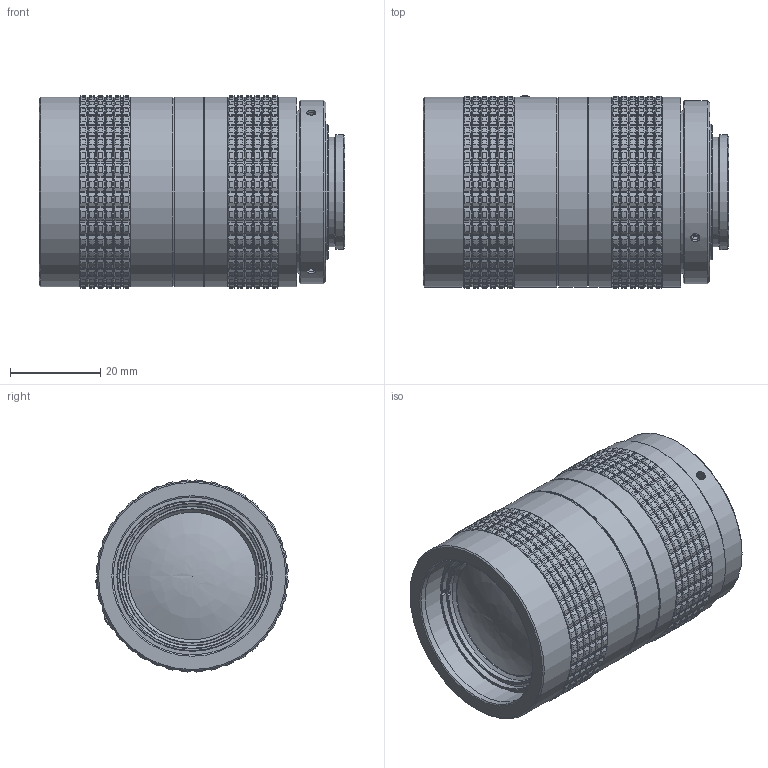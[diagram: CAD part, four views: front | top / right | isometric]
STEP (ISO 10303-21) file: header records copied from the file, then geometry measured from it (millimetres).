
FILE_DESCRIPTION(/* description */ (''),/* implementation_level */ '2;1');
FILE_NAME(/* name */ '0020-005-000-40_AP',/* time_stamp */ '2009-07-29T14:53:47+02:00',/* author */ (''),/* organization */ (''),/* preprocessor_version */ 'ST-DEVELOPER v9',/* originating_system */ 'UGS - NX 4.0',/* authorisation */ '');
FILE_SCHEMA (('AUTOMOTIVE_DESIGN { 1 0 10303 214 1 1 1 1 }'));
Products named in the file (1): pant4B41j2zn
Bounding box: 67.57 x 42.52 x 42.46 mm (x, y, z)
Volume: 81865.1 mm3; surface area: 16662.7 mm2
Topology: 4 solids, 8 shells, 3072 faces, 8090 edges, 5061 vertices
Faces by surface type: plane 1529, cone 997, cylinder 540, torus 3, revolution 3
Full cylindrical faces by diameter (mm): 1.2 x3, 2 x2, 2.013 x3, 2.5 x3, 10.8 x1, 13 x1, 22 x1, 22.6 x1, 24.2 x1, 25.4 x1, 28.2 x1, 29.5 x1, 30 x1, 30.5 x1, 30.886 x2, 32 x4, 33 x1, 33.3 x1, 34.886 x1, 35.7 x1, 36 x2, 40.5 x1, 41.5 x6, 41.9 x10, 42 x4
Entity records: 118572 total; most frequent: CARTESIAN_POINT 28072, ORIENTED_EDGE 15918, DIRECTION 12311, EDGE_CURVE 7959, AXIS2_PLACEMENT_3D 5135, VERTEX_POINT 5028, B_SPLINE_CURVE_WITH_KNOTS 3859, EDGE_LOOP 3206
